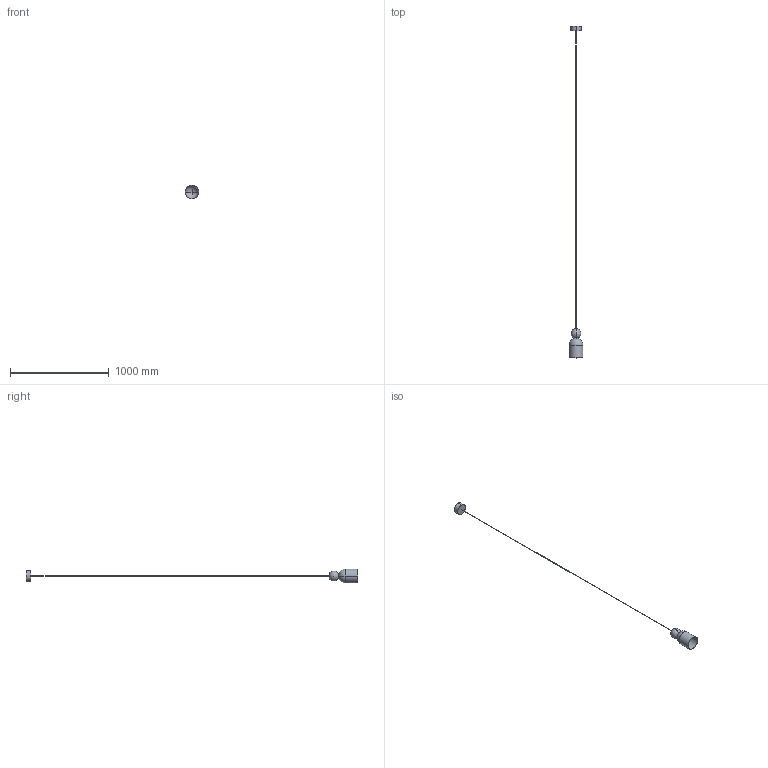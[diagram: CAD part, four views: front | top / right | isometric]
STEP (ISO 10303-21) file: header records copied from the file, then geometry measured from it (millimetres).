
FILE_DESCRIPTION (( 'STEP AP214' ), '1' );
FILE_NAME ('BELL_CU1084.STEP', '2026-06-05T07:28:48', ( '' ), ( '' ), 'SwSTEP 2.0', 'SolidWorks 2023', '' );
FILE_SCHEMA (( 'AUTOMOTIVE_DESIGN' ));
Length unit declared in the file: inch
Products named in the file (1): BELL_CU1084
Bounding box: 140 x 3355.04 x 140 mm (x, y, z)
Volume: 1277591.7 mm3; surface area: 269329.7 mm2
Topology: 5 solids, 5 shells, 26 faces, 55 edges, 35 vertices
Faces by surface type: cylinder 12, plane 8, sphere 6
Entity records: 687 total; most frequent: DIRECTION 126, CARTESIAN_POINT 97, ORIENTED_EDGE 84, AXIS2_PLACEMENT_3D 57, EDGE_CURVE 42, CIRCLE 30, VERTEX_POINT 28, EDGE_LOOP 28
